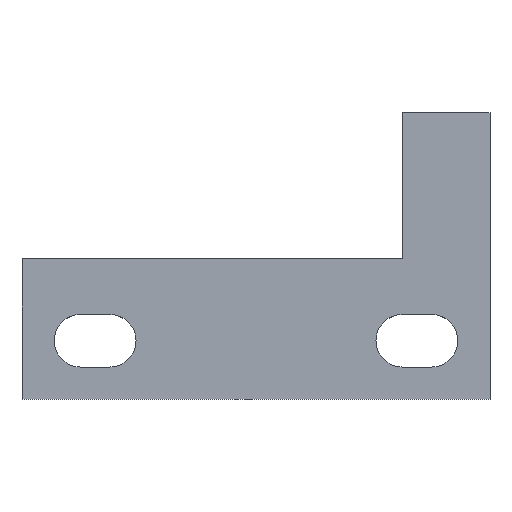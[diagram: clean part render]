
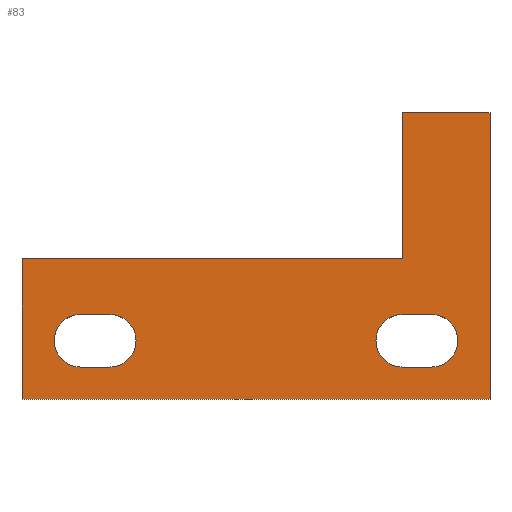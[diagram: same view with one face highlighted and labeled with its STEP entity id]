
A CAD part, top view. The second image highlights one B-rep face of the part: STEP entity #83.
In plain terms, the highlighted planar face has unit normal (0, 0, 1).
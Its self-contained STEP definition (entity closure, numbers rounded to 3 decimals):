
#47=FACE_BOUND('',#120,.T.);
#48=FACE_BOUND('',#121,.T.);
#49=FACE_BOUND('',#122,.T.);
#67=PLANE('',#400);
#83=ADVANCED_FACE('',(#47,#48,#49),#67,.F.);
#120=EDGE_LOOP('',(#256,#257,#258,#259,#260,#261));
#121=EDGE_LOOP('',(#262,#263,#264,#265));
#122=EDGE_LOOP('',(#266,#267,#268,#269));
#134=LINE('',#513,#168);
#140=LINE('',#534,#174);
#144=LINE('',#547,#178);
#148=LINE('',#555,#182);
#151=LINE('',#563,#185);
#154=LINE('',#569,#188);
#157=LINE('',#577,#191);
#159=LINE('',#580,#193);
#161=LINE('',#583,#195);
#163=LINE('',#586,#197);
#168=VECTOR('',#417,1.);
#174=VECTOR('',#437,1.);
#178=VECTOR('',#449,1.);
#182=VECTOR('',#455,1.);
#185=VECTOR('',#462,1.);
#188=VECTOR('',#467,1.);
#191=VECTOR('',#474,1.);
#193=VECTOR('',#478,1.);
#195=VECTOR('',#482,1.);
#197=VECTOR('',#486,1.);
#256=ORIENTED_EDGE('',*,*,#341,.T.);
#257=ORIENTED_EDGE('',*,*,#345,.T.);
#258=ORIENTED_EDGE('',*,*,#349,.T.);
#259=ORIENTED_EDGE('',*,*,#352,.T.);
#260=ORIENTED_EDGE('',*,*,#356,.T.);
#261=ORIENTED_EDGE('',*,*,#360,.T.);
#262=ORIENTED_EDGE('',*,*,#331,.F.);
#263=ORIENTED_EDGE('',*,*,#335,.T.);
#264=ORIENTED_EDGE('',*,*,#338,.T.);
#265=ORIENTED_EDGE('',*,*,#358,.T.);
#266=ORIENTED_EDGE('',*,*,#321,.T.);
#267=ORIENTED_EDGE('',*,*,#325,.T.);
#268=ORIENTED_EDGE('',*,*,#328,.T.);
#269=ORIENTED_EDGE('',*,*,#362,.T.);
#290=VERTEX_POINT('',#504);
#291=VERTEX_POINT('',#506);
#293=VERTEX_POINT('',#512);
#295=VERTEX_POINT('',#518);
#298=VERTEX_POINT('',#525);
#299=VERTEX_POINT('',#527);
#301=VERTEX_POINT('',#533);
#303=VERTEX_POINT('',#539);
#306=VERTEX_POINT('',#546);
#307=VERTEX_POINT('',#548);
#309=VERTEX_POINT('',#554);
#312=VERTEX_POINT('',#562);
#314=VERTEX_POINT('',#568);
#317=VERTEX_POINT('',#576);
#321=EDGE_CURVE('',#291,#290,#365,.T.);
#325=EDGE_CURVE('',#290,#293,#134,.T.);
#328=EDGE_CURVE('',#293,#295,#367,.T.);
#331=EDGE_CURVE('',#298,#299,#369,.T.);
#335=EDGE_CURVE('',#298,#301,#140,.T.);
#338=EDGE_CURVE('',#301,#303,#371,.T.);
#341=EDGE_CURVE('',#307,#306,#144,.T.);
#345=EDGE_CURVE('',#306,#309,#148,.T.);
#349=EDGE_CURVE('',#309,#312,#151,.T.);
#352=EDGE_CURVE('',#312,#314,#154,.T.);
#356=EDGE_CURVE('',#314,#317,#157,.T.);
#358=EDGE_CURVE('',#303,#299,#159,.T.);
#360=EDGE_CURVE('',#317,#307,#161,.T.);
#362=EDGE_CURVE('',#295,#291,#163,.T.);
#365=CIRCLE('',#377,4.5);
#367=CIRCLE('',#381,4.5);
#369=CIRCLE('',#384,4.5);
#371=CIRCLE('',#388,4.5);
#377=AXIS2_PLACEMENT_3D('',#505,#410,#411);
#381=AXIS2_PLACEMENT_3D('',#519,#423,#424);
#384=AXIS2_PLACEMENT_3D('',#526,#430,#431);
#388=AXIS2_PLACEMENT_3D('',#540,#443,#444);
#400=AXIS2_PLACEMENT_3D('',#588,#489,#490);
#410=DIRECTION('',(0.,0.,-1.));
#411=DIRECTION('',(1.,0.,0.));
#417=DIRECTION('',(1.,0.,0.));
#423=DIRECTION('',(0.,0.,-1.));
#424=DIRECTION('',(1.,0.,0.));
#430=DIRECTION('',(0.,0.,1.));
#431=DIRECTION('',(1.,0.,0.));
#437=DIRECTION('',(1.,0.,0.));
#443=DIRECTION('',(0.,0.,-1.));
#444=DIRECTION('',(1.,0.,0.));
#449=DIRECTION('',(0.,-1.,0.));
#455=DIRECTION('',(1.,0.,0.));
#462=DIRECTION('',(0.,1.,0.));
#467=DIRECTION('',(-1.,0.,0.));
#474=DIRECTION('',(0.,-1.,0.));
#478=DIRECTION('',(-1.,0.,0.));
#482=DIRECTION('',(-1.,0.,0.));
#486=DIRECTION('',(-1.,0.,0.));
#489=DIRECTION('',(0.,0.,-1.));
#490=DIRECTION('',(-1.,0.,0.));
#504=CARTESIAN_POINT('',(65.,14.5,12.));
#505=CARTESIAN_POINT('',(65.,10.,12.));
#506=CARTESIAN_POINT('',(65.,5.5,12.));
#512=CARTESIAN_POINT('',(70.,14.5,12.));
#513=CARTESIAN_POINT('',(65.,14.5,12.));
#518=CARTESIAN_POINT('',(70.,5.5,12.));
#519=CARTESIAN_POINT('',(70.,10.,12.));
#525=CARTESIAN_POINT('',(10.,14.5,12.));
#526=CARTESIAN_POINT('',(10.,10.,12.));
#527=CARTESIAN_POINT('',(10.,5.5,12.));
#533=CARTESIAN_POINT('',(15.,14.5,12.));
#534=CARTESIAN_POINT('',(10.,14.5,12.));
#539=CARTESIAN_POINT('',(15.,5.5,12.));
#540=CARTESIAN_POINT('',(15.,10.,12.));
#546=CARTESIAN_POINT('',(0.,0.,12.));
#547=CARTESIAN_POINT('',(0.,24.,12.));
#548=CARTESIAN_POINT('',(0.,24.,12.));
#554=CARTESIAN_POINT('',(80.,0.,12.));
#555=CARTESIAN_POINT('',(0.,0.,12.));
#562=CARTESIAN_POINT('',(80.,49.,12.));
#563=CARTESIAN_POINT('',(80.,0.,12.));
#568=CARTESIAN_POINT('',(65.,49.,12.));
#569=CARTESIAN_POINT('',(80.,49.,12.));
#576=CARTESIAN_POINT('',(65.,24.,12.));
#577=CARTESIAN_POINT('',(65.,49.,12.));
#580=CARTESIAN_POINT('',(15.,5.5,12.));
#583=CARTESIAN_POINT('',(65.,24.,12.));
#586=CARTESIAN_POINT('',(70.,5.5,12.));
#588=CARTESIAN_POINT('',(10.,10.,12.));
